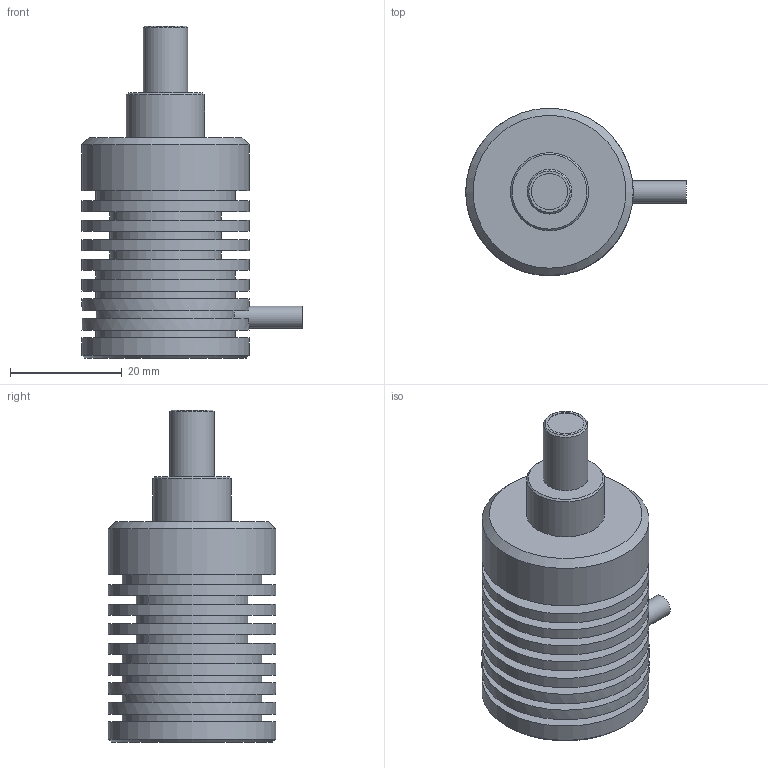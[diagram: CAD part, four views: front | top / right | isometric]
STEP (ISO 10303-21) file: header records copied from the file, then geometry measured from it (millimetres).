
FILE_DESCRIPTION(('STEP AP214'),'1');
FILE_NAME('LED-1WD.stp','2024-12-24T02:42:41',(' '),(' '),'Spatial InterOp 3D',' ',' ');
FILE_SCHEMA(('AUTOMOTIVE_DESIGN { 1 0 10303 214 1 1 1 1 }'));
Length unit declared in the file: metre
Products named in the file (2): LED-1WD; Component1
Assembly tree (1 placements, depth 2):
  LED-1WD
    Component1
Bounding box: 39.5 x 30 x 59.5 mm (x, y, z)
Volume: 26381.8 mm3; surface area: 10099.5 mm2
Topology: 1 solids, 1 shells, 49 faces, 83 edges, 54 vertices
Faces by surface type: plane 23, cylinder 22, cone 4
Full cylindrical faces by diameter (mm): 4 x1, 4.2 x1, 6.5 x1, 8 x1, 14 x1, 20 x3, 25 x4, 30 x9
Entity records: 1507 total; most frequent: CARTESIAN_POINT 209, DIRECTION 200, ORIENTED_EDGE 110, AXIS2_PLACEMENT_3D 98, EDGE_LOOP 92, FACE_OUTER_BOUND 70, EDGE_CURVE 55, VERTEX_POINT 51
